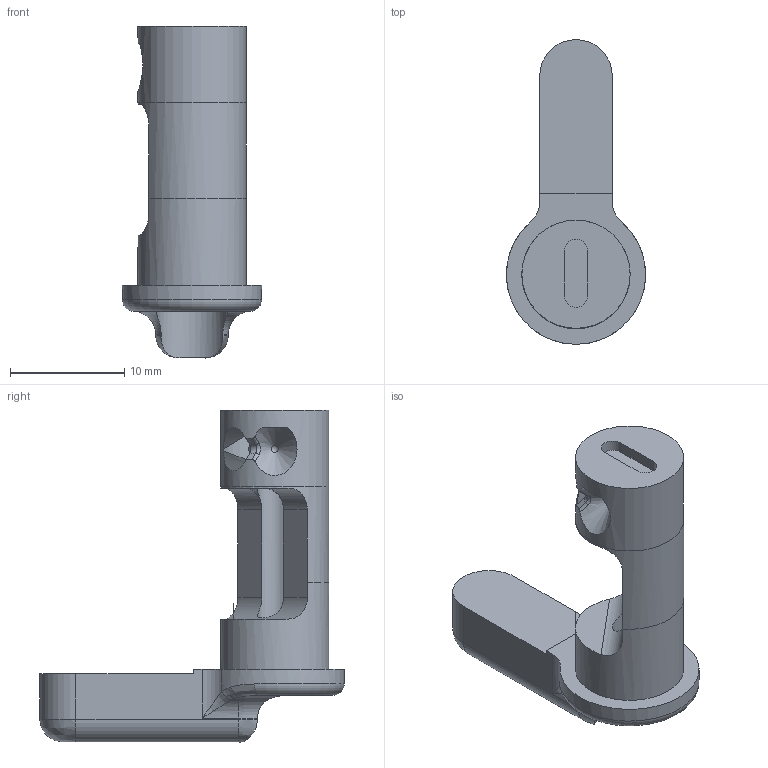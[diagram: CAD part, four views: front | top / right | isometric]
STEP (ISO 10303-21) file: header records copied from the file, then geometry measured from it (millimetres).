
FILE_DESCRIPTION(/* description */ (''),/* implementation_level */ '2;1');
FILE_NAME(/* name */ 'D:/Pew Pews/FGC-9_MkII_Stingray_Edition/Stingray Edition/.step files/2 - Lower/Fire Selector Lever.step',/* time_stamp */ '2022-05-12T09:38:32-06:00',/* author */ (''),/* organization */ (''),/* preprocessor_version */ 'ST-DEVELOPER v18.1',/* originating_system */ 'Autodesk Translation Framework v10.10.0.1391',/* authorisation */ '');
FILE_SCHEMA (('AUTOMOTIVE_DESIGN { 1 0 10303 214 3 1 1 }'));
Length unit declared in the file: millimetre
Products named in the file (1): Fire Selector Lever and drum.
Bounding box: 12.19 x 26.67 x 29.06 mm (x, y, z)
Volume: 1920.6 mm3; surface area: 1544.1 mm2
Topology: 1 solids, 2 shells, 79 faces, 210 edges, 135 vertices
Faces by surface type: plane 29, cylinder 26, bspline 14, cone 4, torus 4, sphere 2
Full cylindrical faces by diameter (mm): 2.87 x1, 3 x1, 9.474 x3
Entity records: 3027 total; most frequent: CARTESIAN_POINT 1094, ORIENTED_EDGE 410, DIRECTION 371, EDGE_CURVE 205, AXIS2_PLACEMENT_3D 149, VERTEX_POINT 135, EDGE_LOOP 86, FACE_OUTER_BOUND 79
